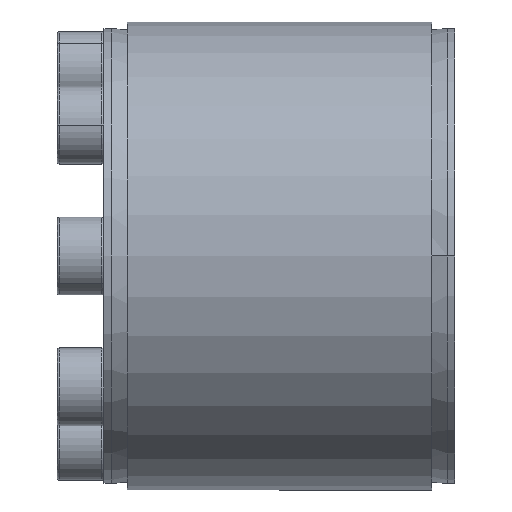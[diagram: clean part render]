
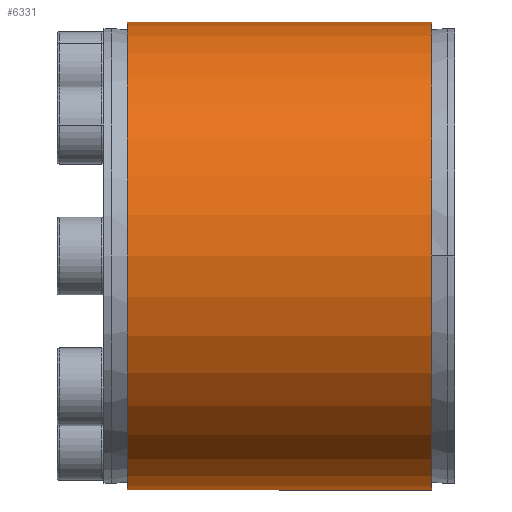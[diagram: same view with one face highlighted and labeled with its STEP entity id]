
A CAD part, front view. The second image highlights one B-rep face of the part: STEP entity #6331.
In plain terms, the highlighted cylindrical face has radius 30 mm (diameter 60 mm), a partial arc.
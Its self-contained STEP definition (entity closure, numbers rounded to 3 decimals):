
#86 = CARTESIAN_POINT ( 'NONE',  ( 21.732, 0., -30. ) ) ;
#456 = ORIENTED_EDGE ( 'NONE', *, *, #947, .F. ) ;
#488 = EDGE_CURVE ( 'NONE', #6406, #5591, #7801, .T. ) ;
#527 = VECTOR ( 'NONE', #7024, 1000. ) ;
#534 = CARTESIAN_POINT ( 'NONE',  ( -17.268, 0., -30. ) ) ;
#542 = CARTESIAN_POINT ( 'NONE',  ( -17.268, 0., 30. ) ) ;
#557 = CYLINDRICAL_SURFACE ( 'NONE', #2089, 30. ) ;
#743 = EDGE_CURVE ( 'NONE', #6406, #2913, #1736, .T. ) ;
#804 = EDGE_CURVE ( 'NONE', #2913, #4508, #2256, .T. ) ;
#947 = EDGE_CURVE ( 'NONE', #5591, #4508, #5645, .T. ) ;
#1157 = DIRECTION ( 'NONE',  ( 0., 0., 1. ) ) ;
#1343 = DIRECTION ( 'NONE',  ( -1., 0., 0. ) ) ;
#1736 = CIRCLE ( 'NONE', #5651, 30. ) ;
#1856 = CARTESIAN_POINT ( 'NONE',  ( 21.732, 0., 30. ) ) ;
#1861 = CARTESIAN_POINT ( 'NONE',  ( -43.29, 0., 0. ) ) ;
#2089 = AXIS2_PLACEMENT_3D ( 'NONE', #1861, #1343, #1157 ) ;
#2116 = FACE_OUTER_BOUND ( 'NONE', #2252, .T. ) ;
#2252 = EDGE_LOOP ( 'NONE', ( #2437, #2696, #2356, #456 ) ) ;
#2256 = LINE ( 'NONE', #6947, #527 ) ;
#2356 = ORIENTED_EDGE ( 'NONE', *, *, #804, .T. ) ;
#2437 = ORIENTED_EDGE ( 'NONE', *, *, #488, .F. ) ;
#2475 = AXIS2_PLACEMENT_3D ( 'NONE', #4269, #2874, #7762 ) ;
#2696 = ORIENTED_EDGE ( 'NONE', *, *, #743, .T. ) ;
#2874 = DIRECTION ( 'NONE',  ( -1., 0., 0. ) ) ;
#2913 = VERTEX_POINT ( 'NONE', #1856 ) ;
#4269 = CARTESIAN_POINT ( 'NONE',  ( -17.268, 0., 0. ) ) ;
#4508 = VERTEX_POINT ( 'NONE', #542 ) ;
#4796 = CARTESIAN_POINT ( 'NONE',  ( -43.29, 0., -30. ) ) ;
#4816 = DIRECTION ( 'NONE',  ( -1., 0., 0. ) ) ;
#5591 = VERTEX_POINT ( 'NONE', #534 ) ;
#5645 = CIRCLE ( 'NONE', #2475, 30. ) ;
#5651 = AXIS2_PLACEMENT_3D ( 'NONE', #6579, #6609, #6613 ) ;
#6331 = ADVANCED_FACE ( 'NONE', ( #2116 ), #557, .T. ) ;
#6406 = VERTEX_POINT ( 'NONE', #86 ) ;
#6579 = CARTESIAN_POINT ( 'NONE',  ( 21.732, 0., 0. ) ) ;
#6609 = DIRECTION ( 'NONE',  ( -1., 0., 0. ) ) ;
#6613 = DIRECTION ( 'NONE',  ( 0., 0., 1. ) ) ;
#6947 = CARTESIAN_POINT ( 'NONE',  ( -43.29, 0., 30. ) ) ;
#7024 = DIRECTION ( 'NONE',  ( -1., 0., 0. ) ) ;
#7732 = VECTOR ( 'NONE', #4816, 1000. ) ;
#7762 = DIRECTION ( 'NONE',  ( 0., 0., 1. ) ) ;
#7801 = LINE ( 'NONE', #4796, #7732 ) ;
